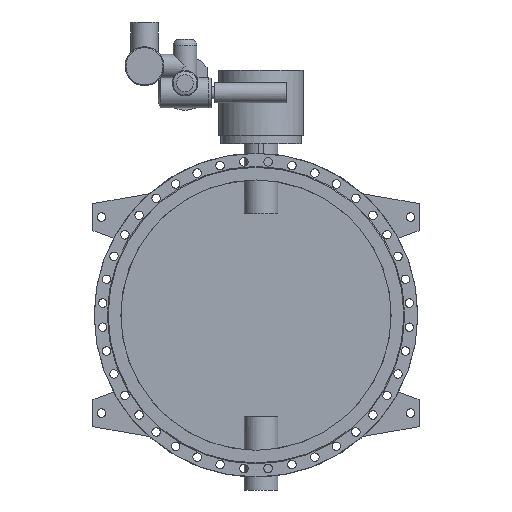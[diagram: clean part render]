
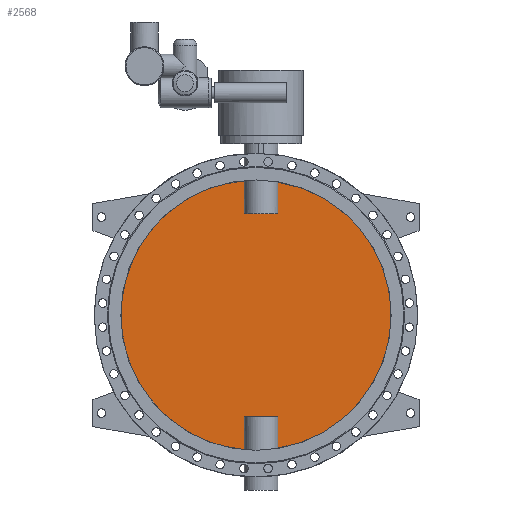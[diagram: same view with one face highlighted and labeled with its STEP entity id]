
A CAD part, front view. The second image highlights one B-rep face of the part: STEP entity #2568.
In plain terms, the highlighted planar face has unit normal (0, -1, 0).
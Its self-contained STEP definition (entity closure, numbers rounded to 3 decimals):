
#2568=ADVANCED_FACE('',(#5305),#5307,.F.);
#5305=FACE_BOUND('',#5306,.T.);
#5306=EDGE_LOOP('',(#6439,#6440,#6441,#6442,#6443,#6444,#6445,#6446));
#5307=PLANE('',#5308);
#5308=AXIS2_PLACEMENT_3D('',#5309,#5310,#5311);
#5309=CARTESIAN_POINT('',(0.,-5.,0.));
#5310=DIRECTION('',(0.,1.,0.));
#5311=DIRECTION('',(1.,0.,0.));
#6439=ORIENTED_EDGE('',*,*,#7007,.T.);
#6440=ORIENTED_EDGE('',*,*,#7012,.T.);
#6441=ORIENTED_EDGE('',*,*,#7013,.T.);
#6442=ORIENTED_EDGE('',*,*,#7014,.T.);
#6443=ORIENTED_EDGE('',*,*,#7009,.T.);
#6444=ORIENTED_EDGE('',*,*,#7015,.T.);
#6445=ORIENTED_EDGE('',*,*,#7016,.T.);
#6446=ORIENTED_EDGE('',*,*,#7017,.T.);
#7007=EDGE_CURVE('',#8025,#8026,#8027,.F.);
#7009=EDGE_CURVE('',#8030,#8028,#8031,.F.);
#7012=EDGE_CURVE('',#8026,#8035,#8036,.T.);
#7013=EDGE_CURVE('',#8035,#8037,#8038,.F.);
#7014=EDGE_CURVE('',#8037,#8030,#8039,.F.);
#7015=EDGE_CURVE('',#8028,#8040,#8041,.F.);
#7016=EDGE_CURVE('',#8040,#8042,#8043,.F.);
#7017=EDGE_CURVE('',#8042,#8025,#8044,.T.);
#8025=VERTEX_POINT('',#12421);
#8026=VERTEX_POINT('',#12422);
#8027=CIRCLE('',#12423,800.);
#8028=VERTEX_POINT('',#12427);
#8030=VERTEX_POINT('',#12526);
#8031=CIRCLE('',#12527,800.);
#8035=VERTEX_POINT('',#12626);
#8036=LINE('',#12627,#12628);
#8037=VERTEX_POINT('',#12630);
#8038=LINE('',#12631,#12632);
#8039=LINE('',#12634,#12635);
#8040=VERTEX_POINT('',#12637);
#8041=LINE('',#12638,#12639);
#8042=VERTEX_POINT('',#12641);
#8043=LINE('',#12642,#12643);
#8044=LINE('',#12645,#12646);
#12421=CARTESIAN_POINT('',(129.875,-5.,-789.387));
#12422=CARTESIAN_POINT('',(129.875,-5.,789.387));
#12423=AXIS2_PLACEMENT_3D('',#12424,#12425,#12426);
#12424=CARTESIAN_POINT('',(0.,-5.,0.));
#12425=DIRECTION('',(0.,1.,0.));
#12426=DIRECTION('',(0.162,0.,0.987));
#12427=CARTESIAN_POINT('',(-69.875,-5.,-796.943));
#12526=CARTESIAN_POINT('',(-69.875,-5.,796.943));
#12527=AXIS2_PLACEMENT_3D('',#12528,#12529,#12530);
#12528=CARTESIAN_POINT('',(0.,-5.,0.));
#12529=DIRECTION('',(0.,1.,0.));
#12530=DIRECTION('',(-0.087,0.,-0.996));
#12626=CARTESIAN_POINT('',(129.875,-5.,600.));
#12627=CARTESIAN_POINT('',(129.875,-5.,789.387));
#12628=VECTOR('',#12629,1.);
#12629=DIRECTION('',(0.,0.,-1.));
#12630=CARTESIAN_POINT('',(-69.875,-5.,600.));
#12631=CARTESIAN_POINT('',(-69.875,-5.,600.));
#12632=VECTOR('',#12633,1.);
#12633=DIRECTION('',(1.,0.,0.));
#12634=CARTESIAN_POINT('',(-69.875,-5.,796.943));
#12635=VECTOR('',#12636,1.);
#12636=DIRECTION('',(0.,0.,-1.));
#12637=CARTESIAN_POINT('',(-69.875,-5.,-600.));
#12638=CARTESIAN_POINT('',(-69.875,-5.,-600.));
#12639=VECTOR('',#12640,1.);
#12640=DIRECTION('',(0.,0.,-1.));
#12641=CARTESIAN_POINT('',(129.875,-5.,-600.));
#12642=CARTESIAN_POINT('',(129.875,-5.,-600.));
#12643=VECTOR('',#12644,1.);
#12644=DIRECTION('',(-1.,0.,0.));
#12645=CARTESIAN_POINT('',(129.875,-5.,-600.));
#12646=VECTOR('',#12647,1.);
#12647=DIRECTION('',(0.,0.,-1.));
